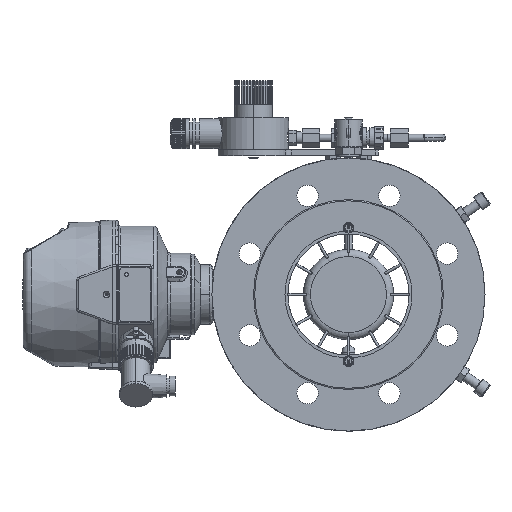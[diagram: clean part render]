
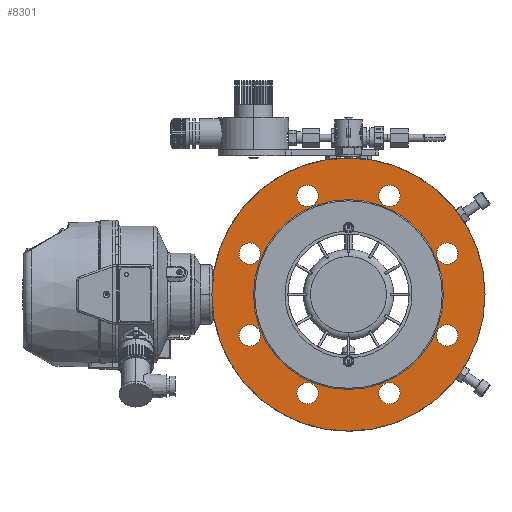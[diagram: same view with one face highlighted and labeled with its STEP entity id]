
A CAD part, left-side view. The second image highlights one B-rep face of the part: STEP entity #8301.
In plain terms, the highlighted planar face has unit normal (-1, 0, 0).
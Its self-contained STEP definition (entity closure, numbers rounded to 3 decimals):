
#1296=CARTESIAN_POINT('',(-98.,-34.442,83.149));
#1297=DIRECTION('',(1.,0.,0.));
#1298=DIRECTION('',(0.,1.,0.));
#1299=AXIS2_PLACEMENT_3D('',#1296,#1297,#1298);
#1304=CARTESIAN_POINT('',(-98.,-34.442,83.149));
#1305=DIRECTION('',(1.,0.,0.));
#1306=DIRECTION('',(0.,-1.,0.));
#1307=AXIS2_PLACEMENT_3D('',#1304,#1305,#1306);
#1312=CARTESIAN_POINT('',(-98.,-83.149,34.442));
#1313=DIRECTION('',(1.,0.,0.));
#1314=DIRECTION('',(0.,1.,0.));
#1315=AXIS2_PLACEMENT_3D('',#1312,#1313,#1314);
#1320=CARTESIAN_POINT('',(-98.,-83.149,34.442));
#1321=DIRECTION('',(1.,0.,0.));
#1322=DIRECTION('',(0.,-1.,0.));
#1323=AXIS2_PLACEMENT_3D('',#1320,#1321,#1322);
#1328=CARTESIAN_POINT('',(-98.,-83.149,-34.442));
#1329=DIRECTION('',(1.,0.,0.));
#1330=DIRECTION('',(0.,1.,0.));
#1331=AXIS2_PLACEMENT_3D('',#1328,#1329,#1330);
#1336=CARTESIAN_POINT('',(-98.,-83.149,-34.442));
#1337=DIRECTION('',(1.,0.,0.));
#1338=DIRECTION('',(0.,-1.,0.));
#1339=AXIS2_PLACEMENT_3D('',#1336,#1337,#1338);
#1344=CARTESIAN_POINT('',(-98.,-34.442,-83.149));
#1345=DIRECTION('',(1.,0.,0.));
#1346=DIRECTION('',(0.,1.,0.));
#1347=AXIS2_PLACEMENT_3D('',#1344,#1345,#1346);
#1352=CARTESIAN_POINT('',(-98.,-34.442,-83.149));
#1353=DIRECTION('',(1.,0.,0.));
#1354=DIRECTION('',(0.,-1.,0.));
#1355=AXIS2_PLACEMENT_3D('',#1352,#1353,#1354);
#1360=CARTESIAN_POINT('',(-98.,34.442,-83.149));
#1361=DIRECTION('',(1.,0.,0.));
#1362=DIRECTION('',(0.,1.,0.));
#1363=AXIS2_PLACEMENT_3D('',#1360,#1361,#1362);
#1368=CARTESIAN_POINT('',(-98.,34.442,-83.149));
#1369=DIRECTION('',(1.,0.,0.));
#1370=DIRECTION('',(0.,-1.,0.));
#1371=AXIS2_PLACEMENT_3D('',#1368,#1369,#1370);
#1376=CARTESIAN_POINT('',(-98.,83.149,-34.442));
#1377=DIRECTION('',(1.,0.,0.));
#1378=DIRECTION('',(0.,1.,0.));
#1379=AXIS2_PLACEMENT_3D('',#1376,#1377,#1378);
#1384=CARTESIAN_POINT('',(-98.,83.149,-34.442));
#1385=DIRECTION('',(1.,0.,0.));
#1386=DIRECTION('',(0.,-1.,0.));
#1387=AXIS2_PLACEMENT_3D('',#1384,#1385,#1386);
#1392=CARTESIAN_POINT('',(-98.,83.149,34.442));
#1393=DIRECTION('',(1.,0.,0.));
#1394=DIRECTION('',(0.,1.,0.));
#1395=AXIS2_PLACEMENT_3D('',#1392,#1393,#1394);
#1400=CARTESIAN_POINT('',(-98.,83.149,34.442));
#1401=DIRECTION('',(1.,0.,0.));
#1402=DIRECTION('',(0.,-1.,0.));
#1403=AXIS2_PLACEMENT_3D('',#1400,#1401,#1402);
#1408=CARTESIAN_POINT('',(-98.,0.,0.));
#1409=DIRECTION('',(1.,0.,0.));
#1410=DIRECTION('',(0.,1.,0.));
#1411=AXIS2_PLACEMENT_3D('',#1408,#1409,#1410);
#1416=CARTESIAN_POINT('',(-98.,0.,0.));
#1417=DIRECTION('',(-1.,0.,0.));
#1418=DIRECTION('',(0.,1.,0.));
#1419=AXIS2_PLACEMENT_3D('',#1416,#1417,#1418);
#1424=CARTESIAN_POINT('',(-98.,34.442,83.149));
#1425=DIRECTION('',(1.,0.,0.));
#1426=DIRECTION('',(0.,1.,0.));
#1427=AXIS2_PLACEMENT_3D('',#1424,#1425,#1426);
#1432=CARTESIAN_POINT('',(-98.,34.442,83.149));
#1433=DIRECTION('',(1.,0.,0.));
#1434=DIRECTION('',(0.,-1.,0.));
#1435=AXIS2_PLACEMENT_3D('',#1432,#1433,#1434);
#1440=CARTESIAN_POINT('',(-98.,0.,0.));
#1441=DIRECTION('',(1.,0.,0.));
#1442=DIRECTION('',(0.,-1.,0.));
#1443=AXIS2_PLACEMENT_3D('',#1440,#1441,#1442);
#1448=CARTESIAN_POINT('',(-98.,0.,0.));
#1449=DIRECTION('',(1.,0.,0.));
#1450=DIRECTION('',(0.,1.,0.));
#1451=AXIS2_PLACEMENT_3D('',#1448,#1449,#1450);
#6981=CARTESIAN_POINT('',(-98.,115.05,0.));
#6983=VERTEX_POINT('',#6981);
#6989=CARTESIAN_POINT('',(-98.,-115.05,0.));
#6991=VERTEX_POINT('',#6989);
#7034=CARTESIAN_POINT('',(-98.,43.442,83.149));
#7035=CARTESIAN_POINT('',(-98.,25.442,83.149));
#7036=VERTEX_POINT('',#7034);
#7037=VERTEX_POINT('',#7035);
#7050=CARTESIAN_POINT('',(-98.,92.149,34.442));
#7051=CARTESIAN_POINT('',(-98.,74.149,34.442));
#7052=VERTEX_POINT('',#7050);
#7053=VERTEX_POINT('',#7051);
#7066=CARTESIAN_POINT('',(-98.,92.149,-34.442));
#7067=CARTESIAN_POINT('',(-98.,74.149,-34.442));
#7068=VERTEX_POINT('',#7066);
#7069=VERTEX_POINT('',#7067);
#7082=CARTESIAN_POINT('',(-98.,43.442,-83.149));
#7083=CARTESIAN_POINT('',(-98.,25.442,-83.149));
#7084=VERTEX_POINT('',#7082);
#7085=VERTEX_POINT('',#7083);
#7174=CARTESIAN_POINT('',(-98.,-80.,0.));
#7175=CARTESIAN_POINT('',(-98.,80.,0.));
#7176=VERTEX_POINT('',#7174);
#7177=VERTEX_POINT('',#7175);
#7198=CARTESIAN_POINT('',(-98.,-25.442,-83.149));
#7199=CARTESIAN_POINT('',(-98.,-43.442,-83.149));
#7200=VERTEX_POINT('',#7198);
#7201=VERTEX_POINT('',#7199);
#7214=CARTESIAN_POINT('',(-98.,-74.149,-34.442));
#7215=CARTESIAN_POINT('',(-98.,-92.149,-34.442));
#7216=VERTEX_POINT('',#7214);
#7217=VERTEX_POINT('',#7215);
#7230=CARTESIAN_POINT('',(-98.,-74.149,34.442));
#7231=CARTESIAN_POINT('',(-98.,-92.149,34.442));
#7232=VERTEX_POINT('',#7230);
#7233=VERTEX_POINT('',#7231);
#7246=CARTESIAN_POINT('',(-98.,-25.442,83.149));
#7247=CARTESIAN_POINT('',(-98.,-43.442,83.149));
#7248=VERTEX_POINT('',#7246);
#7249=VERTEX_POINT('',#7247);
#8237=CARTESIAN_POINT('',(-98.,0.,0.));
#8238=DIRECTION('',(1.,0.,0.));
#8239=DIRECTION('',(0.,-1.,0.));
#8240=AXIS2_PLACEMENT_3D('',#8237,#8238,#8239);
#8241=PLANE('',#8240);
#8242=ORIENTED_EDGE('',*,*,#8214,.T.);
#8244=ORIENTED_EDGE('',*,*,#8243,.F.);
#8245=EDGE_LOOP('',(#8242,#8244));
#8246=FACE_OUTER_BOUND('',#8245,.F.);
#8248=ORIENTED_EDGE('',*,*,#8247,.F.);
#8250=ORIENTED_EDGE('',*,*,#8249,.F.);
#8251=EDGE_LOOP('',(#8248,#8250));
#8252=FACE_BOUND('',#8251,.F.);
#8254=ORIENTED_EDGE('',*,*,#8253,.F.);
#8256=ORIENTED_EDGE('',*,*,#8255,.F.);
#8257=EDGE_LOOP('',(#8254,#8256));
#8258=FACE_BOUND('',#8257,.F.);
#8260=ORIENTED_EDGE('',*,*,#8259,.F.);
#8262=ORIENTED_EDGE('',*,*,#8261,.F.);
#8263=EDGE_LOOP('',(#8260,#8262));
#8264=FACE_BOUND('',#8263,.F.);
#8266=ORIENTED_EDGE('',*,*,#8265,.F.);
#8268=ORIENTED_EDGE('',*,*,#8267,.F.);
#8269=EDGE_LOOP('',(#8266,#8268));
#8270=FACE_BOUND('',#8269,.F.);
#8272=ORIENTED_EDGE('',*,*,#8271,.F.);
#8274=ORIENTED_EDGE('',*,*,#8273,.F.);
#8275=EDGE_LOOP('',(#8272,#8274));
#8276=FACE_BOUND('',#8275,.F.);
#8278=ORIENTED_EDGE('',*,*,#8277,.F.);
#8280=ORIENTED_EDGE('',*,*,#8279,.F.);
#8281=EDGE_LOOP('',(#8278,#8280));
#8282=FACE_BOUND('',#8281,.F.);
#8284=ORIENTED_EDGE('',*,*,#8283,.F.);
#8286=ORIENTED_EDGE('',*,*,#8285,.F.);
#8287=EDGE_LOOP('',(#8284,#8286));
#8288=FACE_BOUND('',#8287,.F.);
#8290=ORIENTED_EDGE('',*,*,#8289,.F.);
#8292=ORIENTED_EDGE('',*,*,#8291,.F.);
#8293=EDGE_LOOP('',(#8290,#8292));
#8294=FACE_BOUND('',#8293,.F.);
#8296=ORIENTED_EDGE('',*,*,#8295,.F.);
#8298=ORIENTED_EDGE('',*,*,#8297,.F.);
#8299=EDGE_LOOP('',(#8296,#8298));
#8300=FACE_BOUND('',#8299,.F.);
#8301=ADVANCED_FACE('',(#8246,#8252,#8258,#8264,#8270,#8276,#8282,#8288,#8294,
#8300),#8241,.F.);
#1300=CIRCLE('',#1299,9.);
#1308=CIRCLE('',#1307,9.);
#1316=CIRCLE('',#1315,9.);
#1324=CIRCLE('',#1323,9.);
#1332=CIRCLE('',#1331,9.);
#1340=CIRCLE('',#1339,9.);
#1348=CIRCLE('',#1347,9.);
#1356=CIRCLE('',#1355,9.);
#1364=CIRCLE('',#1363,9.);
#1372=CIRCLE('',#1371,9.);
#1380=CIRCLE('',#1379,9.);
#1388=CIRCLE('',#1387,9.);
#1396=CIRCLE('',#1395,9.);
#1404=CIRCLE('',#1403,9.);
#1412=CIRCLE('',#1411,115.05);
#1420=CIRCLE('',#1419,115.05);
#1428=CIRCLE('',#1427,9.);
#1436=CIRCLE('',#1435,9.);
#1444=CIRCLE('',#1443,80.);
#1452=CIRCLE('',#1451,80.);
#8214=EDGE_CURVE('',#6983,#6991,#1412,.T.);
#8243=EDGE_CURVE('',#6983,#6991,#1420,.T.);
#8247=EDGE_CURVE('',#7232,#7233,#1316,.T.);
#8249=EDGE_CURVE('',#7233,#7232,#1324,.T.);
#8253=EDGE_CURVE('',#7216,#7217,#1332,.T.);
#8255=EDGE_CURVE('',#7217,#7216,#1340,.T.);
#8259=EDGE_CURVE('',#7200,#7201,#1348,.T.);
#8261=EDGE_CURVE('',#7201,#7200,#1356,.T.);
#8265=EDGE_CURVE('',#7084,#7085,#1364,.T.);
#8267=EDGE_CURVE('',#7085,#7084,#1372,.T.);
#8271=EDGE_CURVE('',#7068,#7069,#1380,.T.);
#8273=EDGE_CURVE('',#7069,#7068,#1388,.T.);
#8277=EDGE_CURVE('',#7052,#7053,#1396,.T.);
#8279=EDGE_CURVE('',#7053,#7052,#1404,.T.);
#8283=EDGE_CURVE('',#7248,#7249,#1300,.T.);
#8285=EDGE_CURVE('',#7249,#7248,#1308,.T.);
#8289=EDGE_CURVE('',#7036,#7037,#1428,.T.);
#8291=EDGE_CURVE('',#7037,#7036,#1436,.T.);
#8295=EDGE_CURVE('',#7176,#7177,#1444,.T.);
#8297=EDGE_CURVE('',#7177,#7176,#1452,.T.);
